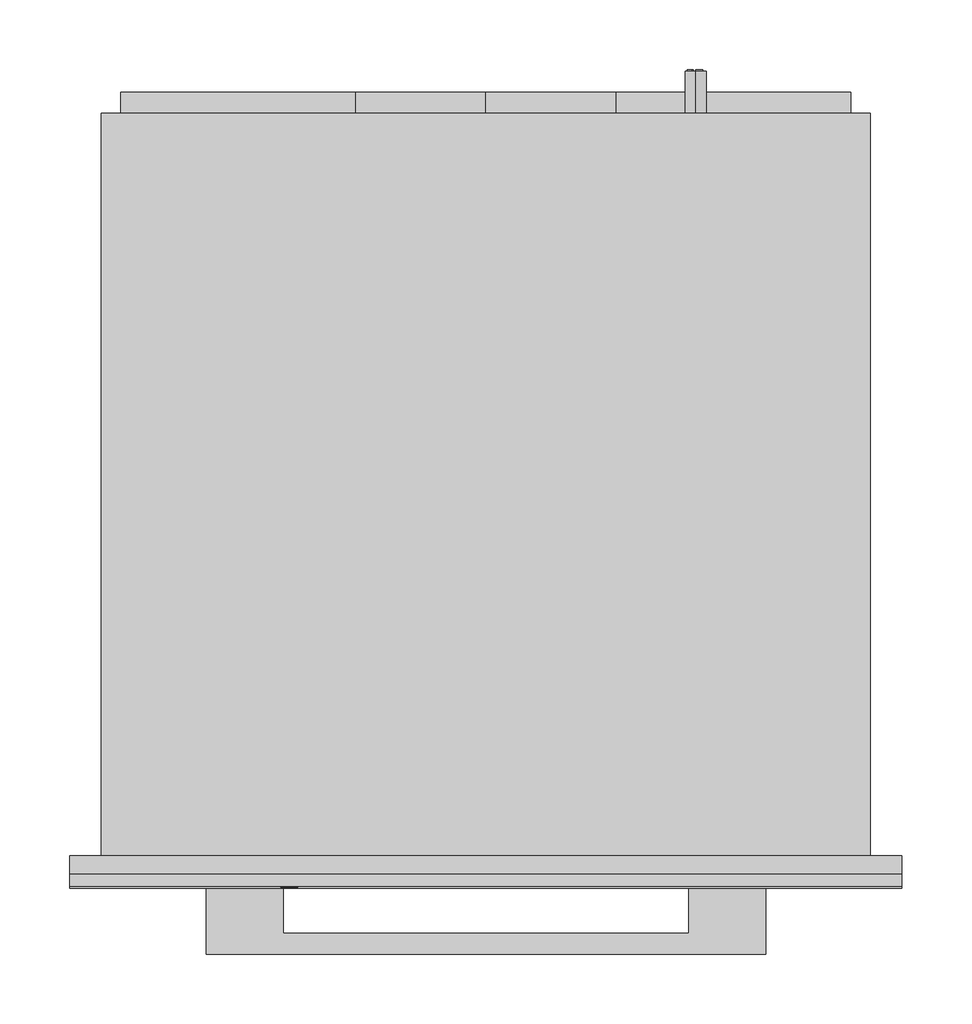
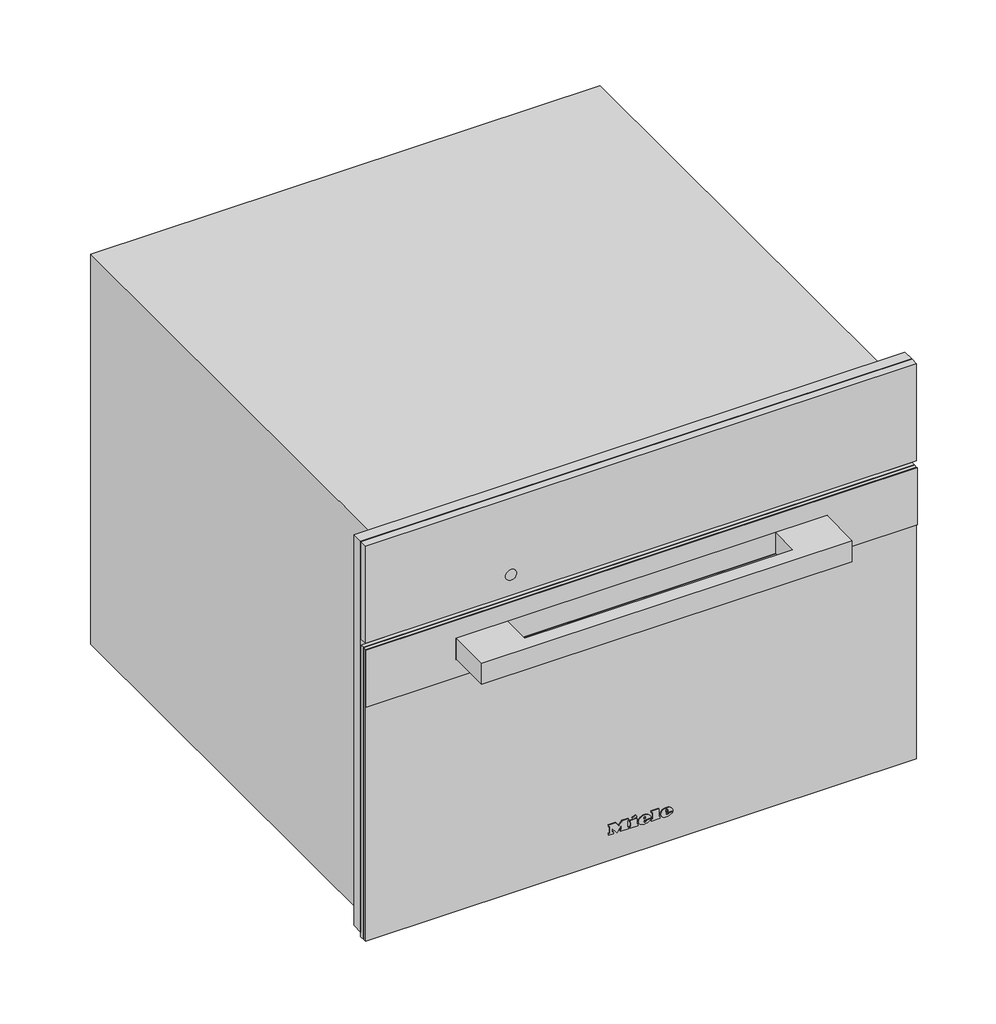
# Not in any storey: 1 proxy.
"""IFC4 building model written with IfcOpenShell, lengths in millimetres."""

from ifc_helpers import new_model, si_unit, origin, place, context, project, spatial, transform, mapped, element, save
from components import specialty_equipment_0b99233d

model = new_model("IFC4")

# Units and contexts
model_context = context("Model", 3, world=origin())
ifc_project = project(units=[si_unit("LENGTHUNIT", "METRE", prefix="MILLI")], contexts=[model_context])

# Site, building
site = spatial("IfcSite", under=ifc_project)
building = spatial("IfcBuilding", under=site)

# Proxy
placement = place(None, origin())
specialty_equipment_shape = specialty_equipment_0b99233d(model_context)
element("IfcBuildingElementProxy", 1, Name="11137810_NER_DG2840_EDST-CLST : 23284040_NER_11137810_DG2840_EDST-CLST", ObjectType="11137810_NER_DG2840_EDST-CLST : 23284040_NER_11137810_DG2840_EDST-CLST", at=placement, inside=building, context=model_context, shape_type="MappedRepresentation", body=[
    mapped(specialty_equipment_shape, transform((0.0, 0.0, 0.0), x_axis=(1.0, 0.0, 0.0), y_axis=(0.0, 1.0, 0.0), z_axis=(0.0, 0.0, 1.0))),
])

save(model, "model.ifc")
